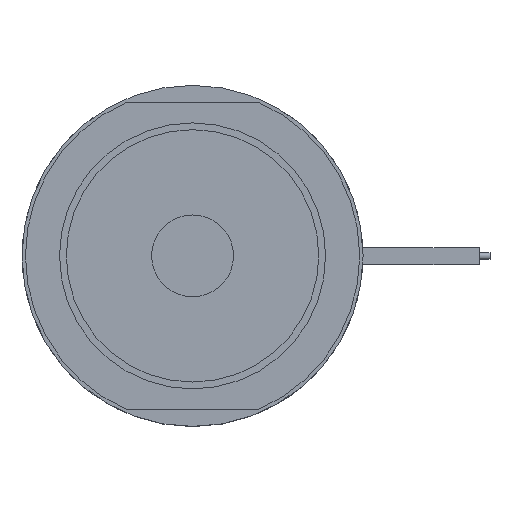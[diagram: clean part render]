
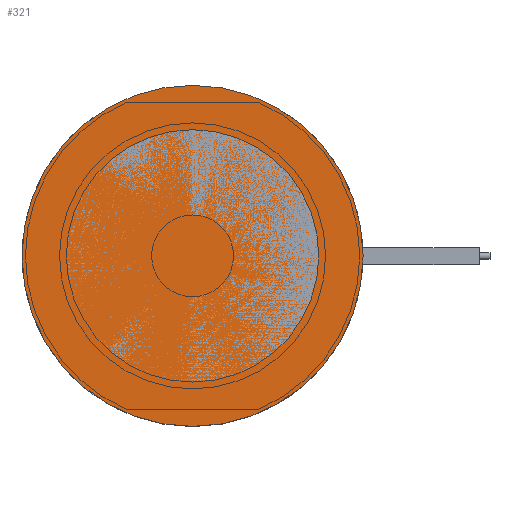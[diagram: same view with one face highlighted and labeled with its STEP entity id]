
A CAD part, top view. The second image highlights one B-rep face of the part: STEP entity #321.
In plain terms, the highlighted planar face has unit normal (0, 0, 1).
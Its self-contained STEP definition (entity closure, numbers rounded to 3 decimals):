
#215=PLANE('',#1108);
#249=FACE_OUTER_BOUND('',#487,.T.);
#321=ADVANCED_FACE('',(#249),#215,.F.);
#487=EDGE_LOOP('',(#599));
#599=ORIENTED_EDGE('',*,*,#911,.F.);
#820=VERTEX_POINT('',#1578);
#911=EDGE_CURVE('',#820,#820,#1027,.T.);
#1027=CIRCLE('',#1107,25.);
#1107=AXIS2_PLACEMENT_3D('',#1577,#1277,#1278);
#1108=AXIS2_PLACEMENT_3D('',#1579,#1279,#1280);
#1277=DIRECTION('',(0.,0.,-1.));
#1278=DIRECTION('',(-1.,0.,0.));
#1279=DIRECTION('',(0.,0.,-1.));
#1280=DIRECTION('',(-1.,0.,0.));
#1577=CARTESIAN_POINT('',(0.,0.,0.));
#1578=CARTESIAN_POINT('',(-25.,0.,0.));
#1579=CARTESIAN_POINT('',(0.,0.,0.));
